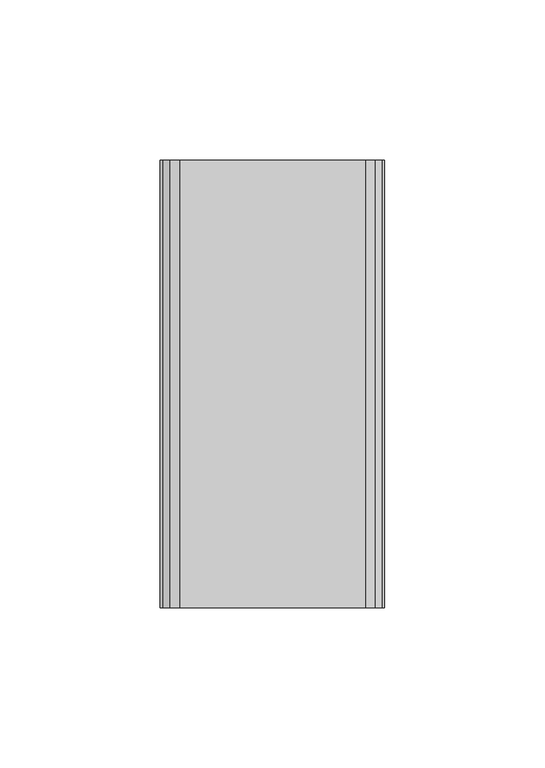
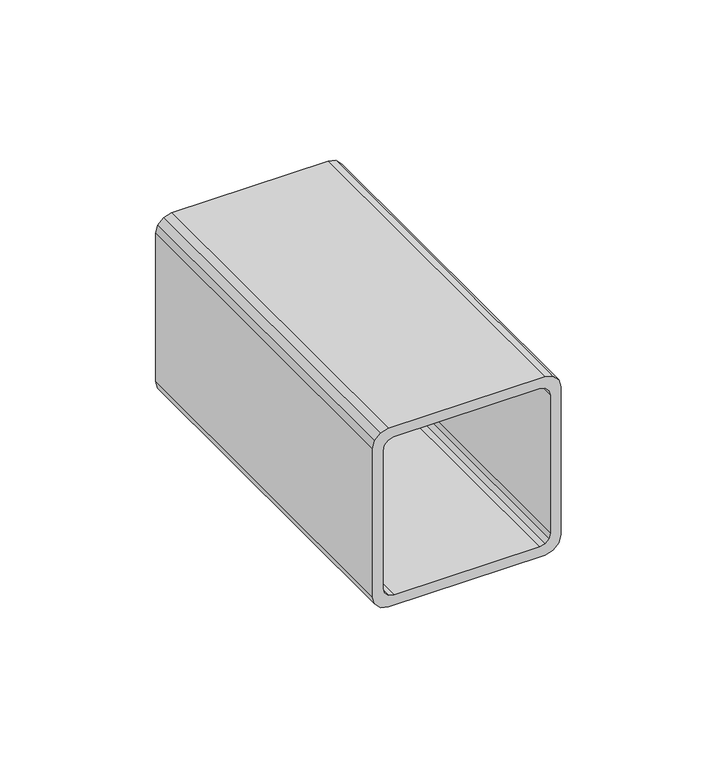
"""IFC4 building model written with IfcOpenShell, lengths in millimetres: beam geometry,  179970 :  179970."""

from ifc_helpers import new_model, si_unit, frame, origin, place, context, project, spatial, polyline, outline, extrude, source, transform, mapped, element, save


def beam_1d88e502(model_context):
    return source(origin(), model_context, "Body", "SweptSolid", [
        extrude(outline(polyline([(7272.6016045, 15154.9999999), (7269.6016045, 15155.8038474), (7267.405452, 15157.9999999), (7266.6016045, 15160.9999999), (7266.6016045, 15218.9999999), (7267.405452, 15221.9999999), (7269.6016045, 15224.1961523), (7272.6016045, 15224.9999999), (7330.6016045, 15224.9999999), (7333.6016045, 15224.1961523), (7335.7977569, 15221.9999999), (7336.6016045, 15218.9999999), (7336.6016045, 15160.9999999), (7335.7977569, 15157.9999999), (7333.6016045, 15155.8038474), (7330.6016045, 15154.9999999), (7272.6016045, 15154.9999999)]), holes=[polyline([(7328.6016045, 15158.9999999), (7330.6016045, 15159.5358983), (7332.0657061, 15160.9999999), (7332.6016045, 15162.9999999), (7332.6016045, 15216.9999999), (7332.0657061, 15218.9999999), (7330.6016045, 15220.4641015), (7328.6016045, 15220.9999999), (7274.6016045, 15220.9999999), (7272.6016045, 15220.4641015), (7271.1375028, 15218.9999999), (7270.6016045, 15216.9999999), (7270.6016045, 15162.9999999), (7271.1375028, 15160.9999999), (7272.6016045, 15159.5358983), (7274.6016045, 15158.9999999), (7328.6016045, 15158.9999999)])]), frame((0.0, -114.45, 0.0), z_axis=(0.0, 1.0, 0.0), x_axis=(0.0, 0.0, 1.0)), (0.0, 0.0, 1.0), 139.45),
    ])


if __name__ == "__main__":
    model = new_model("IFC4")
    model_context = context("Model", 3, world=origin())
    ifc_project = project(units=[si_unit("LENGTHUNIT", "METRE", prefix="MILLI")], contexts=[model_context])
    site = spatial("IfcSite", under=ifc_project)
    building = spatial("IfcBuilding", under=site)
    placement = place(None, origin())
    beam_shape = beam_1d88e502(model_context)
    element("IfcBeam", 1, ObjectType=" 179970 :  179970", at=placement, inside=building, context=model_context, shape_type="MappedRepresentation", body=[
        mapped(beam_shape, transform((0.0, 0.0, 0.0), x_axis=(1.0, 0.0, 0.0), y_axis=(0.0, 1.0, 0.0), z_axis=(0.0, 0.0, 1.0))),
    ])
    save(model, "model.ifc")
